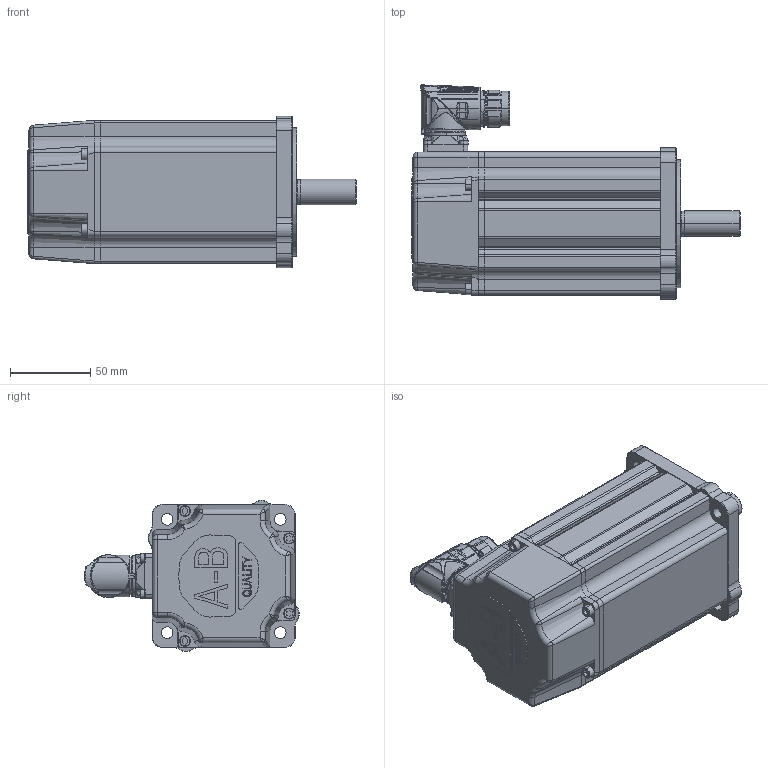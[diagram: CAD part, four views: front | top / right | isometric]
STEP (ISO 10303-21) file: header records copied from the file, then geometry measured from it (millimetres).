
FILE_DESCRIPTION (( 'STEP AP214' ), '1' );
FILE_NAME ('Rockwell Automation-$PARTNUMBER.STEP', '2014-04-10T08:33:09', ( 'Windows User' ), ( '' ), 'SwSTEP 2.0', 'SolidWorks 2014', '' );
FILE_SCHEMA (( 'AUTOMOTIVE_DESIGN' ));
Length unit declared in the file: inch
Products named in the file (9): Rockwell Automation-$PARTNUMBER_Rockwell Automation-VPL-x1001x-xKx4xx_10000540833; Rockwell Automation-$PARTNUMBER_Rockwell Automation-VPL-x1001x-xKx4xx_VPL-100-Shaft_1001-SHAFT-KEYLESS-BRAKE; Rockwell Automation-$PARTNUMBER_Rockwell Automation-VPL-x1001x-xKx4xx_VPL-100-Body_1001-Brake; Rockwell Automation-$PARTNUMBER; Rockwell Automation-$PARTNUMBER_Rockwell Automation-VPL-x1001x-xKx4xx_91290A115_ANY; Rockwell Automation-$PARTNUMBER_Rockwell Automation-VPL-x1001x-xKx4xx_M23_Connector; Rockwell Automation-$PARTNUMBER_Rockwell Automation-VPL-x1001x-xKx4xx_10000014326-M23_ASM; Rockwell Automation-$PARTNUMBER_Rockwell Automation-VPL-x1001x-xKx4xx_10000014326-1; Rockwell Automation-$PARTNUMBER_Rockwell Automation-VPL-x1001x-xKx4xx_10000014325-1
Assembly tree (11 placements, depth 4):
  Rockwell Automation-$PARTNUMBER
    Rockwell Automation-$PARTNUMBER_Rockwell Automation-VPL-x1001x-xKx4xx_VPL-100-Body_1001-Brake
    Rockwell Automation-$PARTNUMBER_Rockwell Automation-VPL-x1001x-xKx4xx_VPL-100-Shaft_1001-SHAFT-KEYLESS-BRAKE
    Rockwell Automation-$PARTNUMBER_Rockwell Automation-VPL-x1001x-xKx4xx_M23_Connector
      Rockwell Automation-$PARTNUMBER_Rockwell Automation-VPL-x1001x-xKx4xx_10000540833
      Rockwell Automation-$PARTNUMBER_Rockwell Automation-VPL-x1001x-xKx4xx_10000014325-1
      Rockwell Automation-$PARTNUMBER_Rockwell Automation-VPL-x1001x-xKx4xx_10000014326-M23_ASM
        Rockwell Automation-$PARTNUMBER_Rockwell Automation-VPL-x1001x-xKx4xx_10000014326-1
    Rockwell Automation-$PARTNUMBER_Rockwell Automation-VPL-x1001x-xKx4xx_91290A115_ANY  x4
Bounding box: 205.1 x 133.99 x 94.41 mm (x, y, z)
Volume: 436578.5 mm3; surface area: 173981.8 mm2
Topology: 10 solids, 16 shells, 2519 faces, 7047 edges, 4567 vertices
Faces by surface type: cylinder 807, plane 748, bspline 724, cone 220, torus 18, sphere 2
Entity records: 154759 total; most frequent: CARTESIAN_POINT 84715, ORIENTED_EDGE 13639, DIRECTION 7963, EDGE_CURVE 6826, VERTEX_POINT 4465, B_SPLINE_CURVE_WITH_KNOTS 3366, AXIS2_PLACEMENT_3D 2900, EDGE_LOOP 2567
